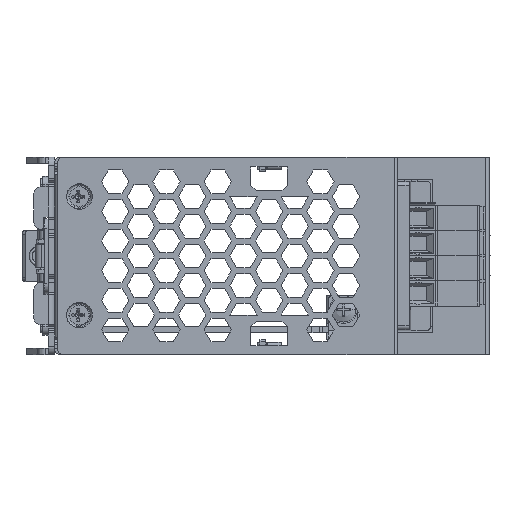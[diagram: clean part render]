
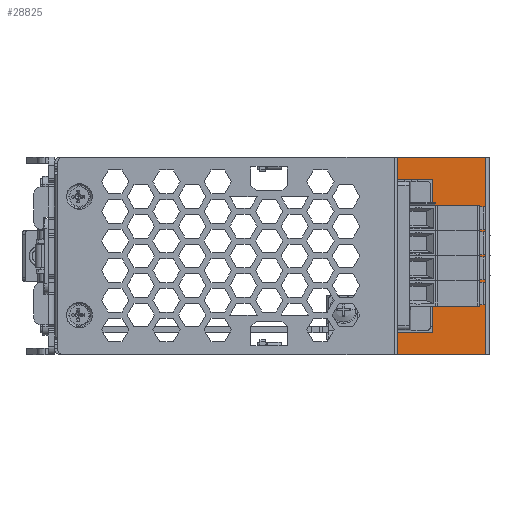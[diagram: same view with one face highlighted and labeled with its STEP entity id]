
A CAD part, front view. The second image highlights one B-rep face of the part: STEP entity #28825.
In plain terms, the highlighted planar face has unit normal (0, -1, 0).
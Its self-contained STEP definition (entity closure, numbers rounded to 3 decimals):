
#14679=DIRECTION('',(-1.,0.,0.));
#14680=VECTOR('',#14679,22.384);
#14681=CARTESIAN_POINT('',(-0.8,-37.,-25.));
#14682=LINE('',#14681,#14680);
#14691=DIRECTION('',(1.,0.,0.));
#14692=VECTOR('',#14691,8.884);
#14693=CARTESIAN_POINT('',(-23.184,-37.,19.35));
#14694=LINE('',#14693,#14692);
#14695=DIRECTION('',(0.,0.,1.));
#14696=VECTOR('',#14695,50.);
#14697=CARTESIAN_POINT('',(-0.8,-37.,-25.));
#14698=LINE('',#14697,#14696);
#14699=DIRECTION('',(1.,0.,0.));
#14700=VECTOR('',#14699,8.884);
#14701=CARTESIAN_POINT('',(-23.184,-37.,-19.35));
#14702=LINE('',#14701,#14700);
#14703=DIRECTION('',(0.,0.,-1.));
#14704=VECTOR('',#14703,38.7);
#14705=CARTESIAN_POINT('',(-14.3,-37.,19.35));
#14706=LINE('',#14705,#14704);
#14720=DIRECTION('',(0.,0.,1.));
#14721=VECTOR('',#14720,5.65);
#14722=CARTESIAN_POINT('',(-23.184,-37.,19.35));
#14723=LINE('',#14722,#14721);
#14729=DIRECTION('',(0.,0.,1.));
#14730=VECTOR('',#14729,5.65);
#14731=CARTESIAN_POINT('',(-23.184,-37.,-25.));
#14732=LINE('',#14731,#14730);
#15467=DIRECTION('',(-1.,0.,0.));
#15468=VECTOR('',#15467,22.384);
#15469=CARTESIAN_POINT('',(-0.8,-37.,25.));
#15470=LINE('',#15469,#15468);
#24234=CARTESIAN_POINT('',(-0.8,-37.,-25.));
#24235=VERTEX_POINT('',#24234);
#24236=CARTESIAN_POINT('',(-0.8,-37.,25.));
#24237=VERTEX_POINT('',#24236);
#24242=CARTESIAN_POINT('',(-23.184,-37.,-25.));
#24243=VERTEX_POINT('',#24242);
#24250=CARTESIAN_POINT('',(-23.184,-37.,25.));
#24251=VERTEX_POINT('',#24250);
#24274=CARTESIAN_POINT('',(-23.184,-37.,19.35));
#24275=CARTESIAN_POINT('',(-14.3,-37.,19.35));
#24276=VERTEX_POINT('',#24274);
#24277=VERTEX_POINT('',#24275);
#24278=CARTESIAN_POINT('',(-14.3,-37.,-19.35));
#24279=VERTEX_POINT('',#24278);
#24280=CARTESIAN_POINT('',(-23.184,-37.,-19.35));
#24281=VERTEX_POINT('',#24280);
#28803=CARTESIAN_POINT('',(-0.8,-37.,-25.));
#28804=DIRECTION('',(0.,1.,0.));
#28805=DIRECTION('',(-1.,0.,0.));
#28806=AXIS2_PLACEMENT_3D('',#28803,#28804,#28805);
#28807=PLANE('',#28806);
#28809=ORIENTED_EDGE('',*,*,#28808,.F.);
#28811=ORIENTED_EDGE('',*,*,#28810,.T.);
#28813=ORIENTED_EDGE('',*,*,#28812,.F.);
#28815=ORIENTED_EDGE('',*,*,#28814,.F.);
#28816=ORIENTED_EDGE('',*,*,#28793,.T.);
#28818=ORIENTED_EDGE('',*,*,#28817,.T.);
#28820=ORIENTED_EDGE('',*,*,#28819,.T.);
#28822=ORIENTED_EDGE('',*,*,#28821,.F.);
#28823=EDGE_LOOP('',(#28809,#28811,#28813,#28815,#28816,#28818,#28820,#28822));
#28824=FACE_OUTER_BOUND('',#28823,.F.);
#28793=EDGE_CURVE('',#24235,#24243,#14682,.T.);
#28808=EDGE_CURVE('',#24276,#24277,#14694,.T.);
#28810=EDGE_CURVE('',#24276,#24251,#14723,.T.);
#28812=EDGE_CURVE('',#24237,#24251,#15470,.T.);
#28814=EDGE_CURVE('',#24235,#24237,#14698,.T.);
#28817=EDGE_CURVE('',#24243,#24281,#14732,.T.);
#28819=EDGE_CURVE('',#24281,#24279,#14702,.T.);
#28821=EDGE_CURVE('',#24277,#24279,#14706,.T.);
#28825=ADVANCED_FACE('',(#28824),#28807,.F.);
